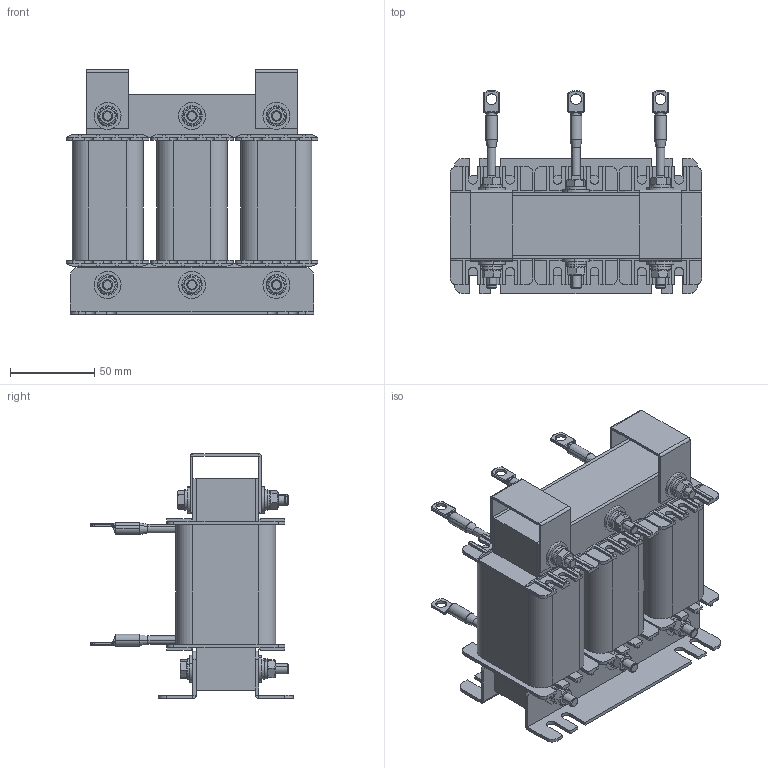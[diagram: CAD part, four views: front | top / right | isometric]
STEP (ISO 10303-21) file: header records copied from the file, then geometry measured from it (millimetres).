
FILE_DESCRIPTION (( 'STEP AP203' ), '1' );
FILE_NAME ('Ñåòåâîé äðîññåëü _ ISF-11_26-4.STEP', '2025-07-09T08:58:47', ( '' ), ( '' ), 'SwSTEP 2.0', 'SolidWorks 2021', '' );
FILE_SCHEMA (( 'CONFIG_CONTROL_DESIGN' ));
Length unit declared in the file: millimetre
Products named in the file (15): Ñåòåâîé äðîññåëü _ ISF-11_26-4; ﾑ褞蒟韭; Êàòóøêà ñ âûâîäàìè; Èçîëÿòîð êàòóøêè; Ïëàñòèíà ïðèæèìíàÿ; 咈櫡; Øàéáà ïëîñêàÿ DIN 9021_Œ6; Âûâîä êàòóøêè; 侲膰翴籦鴀; Áîëò DIN 933_Œ6å60; Êàòóøêà; Ñêîáà òàêåëàæíàÿ; Ãàéêà DIN 934_Œ6; Øàéáà ïðóæèííàÿ DIN 127 (A)_Œ6; Øàéáà ïëîñêàÿ DIN 125 (A)_Œ6
Assembly tree (63 placements, depth 3):
  Ñåòåâîé äðîññåëü _ ISF-11_26-4
    咈櫡  x2
    Èçîëÿòîð êàòóøêè  x6
    Êàòóøêà ñ âûâîäàìè  x3
      Êàòóøêà
      Âûâîä êàòóøêè
      侲膰翴籦鴀
    Ïëàñòèíà ïðèæèìíàÿ  x2
    Ñêîáà òàêåëàæíàÿ  x2
    ﾑ褞蒟韭
    Øàéáà ïëîñêàÿ DIN 9021_Œ6  x12
    Øàéáà ïëîñêàÿ DIN 125 (A)_Œ6  x12
    Øàéáà ïðóæèííàÿ DIN 127 (A)_Œ6  x6
    Ãàéêà DIN 934_Œ6  x6
    Áîëò DIN 933_Œ6å60  x6
Bounding box: 149 x 120 x 145 mm (x, y, z)
Volume: 834472.6 mm3; surface area: 255294.3 mm2
Topology: 70 solids, 70 shells, 1664 faces, 4056 edges, 2508 vertices
Faces by surface type: plane 854, cylinder 450, cone 198, bspline 108, torus 42, sphere 12
Entity records: 13610 total; most frequent: CARTESIAN_POINT 2425, DIRECTION 1777, ORIENTED_EDGE 1672, EDGE_CURVE 836, AXIS2_PLACEMENT_3D 628, VERTEX_POINT 526, LINE 521, VECTOR 521
